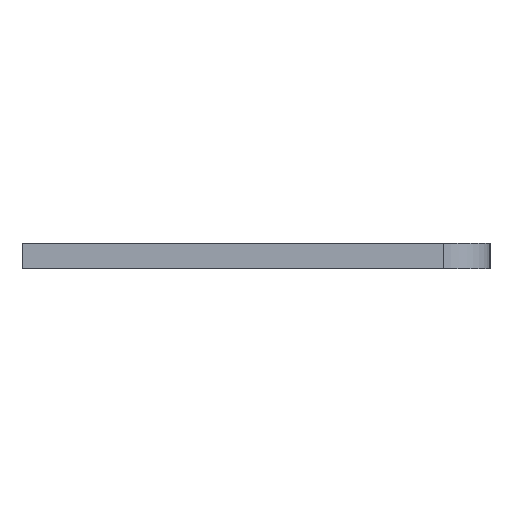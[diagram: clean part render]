
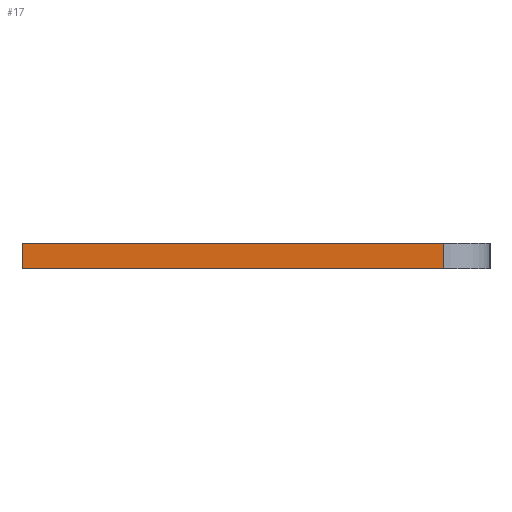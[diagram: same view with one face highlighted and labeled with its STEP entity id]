
A CAD part, left-side view. The second image highlights one B-rep face of the part: STEP entity #17.
In plain terms, the highlighted planar face has unit normal (-1, 0, 0).
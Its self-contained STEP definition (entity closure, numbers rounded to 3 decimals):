
#17 = ADVANCED_FACE('',(#18),#32,.F.);
#18 = FACE_BOUND('',#19,.F.);
#19 = EDGE_LOOP('',(#20,#55,#83,#111));
#20 = ORIENTED_EDGE('',*,*,#21,.F.);
#21 = EDGE_CURVE('',#22,#24,#26,.T.);
#22 = VERTEX_POINT('',#23);
#23 = CARTESIAN_POINT('',(0.,5.,4.25));
#24 = VERTEX_POINT('',#25);
#25 = CARTESIAN_POINT('',(0.,50.,4.25));
#26 = SURFACE_CURVE('',#27,(#31,#43),.PCURVE_S1.);
#27 = LINE('',#28,#29);
#28 = CARTESIAN_POINT('',(0.,0.,4.25));
#29 = VECTOR('',#30,1.);
#30 = DIRECTION('',(0.,1.,0.));
#31 = PCURVE('',#32,#37);
#32 = PLANE('',#33);
#33 = AXIS2_PLACEMENT_3D('',#34,#35,#36);
#34 = CARTESIAN_POINT('',(0.,0.,1.55));
#35 = DIRECTION('',(1.,0.,0.));
#36 = DIRECTION('',(0.,0.,1.));
#37 = DEFINITIONAL_REPRESENTATION('',(#38),#42);
#38 = LINE('',#39,#40);
#39 = CARTESIAN_POINT('',(2.7,0.));
#40 = VECTOR('',#41,1.);
#41 = DIRECTION('',(0.,-1.));
#42 = ( GEOMETRIC_REPRESENTATION_CONTEXT(2) 
PARAMETRIC_REPRESENTATION_CONTEXT() REPRESENTATION_CONTEXT('2D SPACE',''
  ) );
#43 = PCURVE('',#44,#49);
#44 = PLANE('',#45);
#45 = AXIS2_PLACEMENT_3D('',#46,#47,#48);
#46 = CARTESIAN_POINT('',(0.,0.,4.25));
#47 = DIRECTION('',(0.,0.,1.));
#48 = DIRECTION('',(1.,0.,0.));
#49 = DEFINITIONAL_REPRESENTATION('',(#50),#54);
#50 = LINE('',#51,#52);
#51 = CARTESIAN_POINT('',(0.,0.));
#52 = VECTOR('',#53,1.);
#53 = DIRECTION('',(0.,1.));
#54 = ( GEOMETRIC_REPRESENTATION_CONTEXT(2) 
PARAMETRIC_REPRESENTATION_CONTEXT() REPRESENTATION_CONTEXT('2D SPACE',''
  ) );
#55 = ORIENTED_EDGE('',*,*,#56,.F.);
#56 = EDGE_CURVE('',#57,#22,#59,.T.);
#57 = VERTEX_POINT('',#58);
#58 = CARTESIAN_POINT('',(0.,5.,1.55));
#59 = SURFACE_CURVE('',#60,(#64,#71),.PCURVE_S1.);
#60 = LINE('',#61,#62);
#61 = CARTESIAN_POINT('',(0.,5.,1.55));
#62 = VECTOR('',#63,1.);
#63 = DIRECTION('',(0.,0.,1.));
#64 = PCURVE('',#32,#65);
#65 = DEFINITIONAL_REPRESENTATION('',(#66),#70);
#66 = LINE('',#67,#68);
#67 = CARTESIAN_POINT('',(0.,-5.));
#68 = VECTOR('',#69,1.);
#69 = DIRECTION('',(1.,0.));
#70 = ( GEOMETRIC_REPRESENTATION_CONTEXT(2) 
PARAMETRIC_REPRESENTATION_CONTEXT() REPRESENTATION_CONTEXT('2D SPACE',''
  ) );
#71 = PCURVE('',#72,#77);
#72 = CYLINDRICAL_SURFACE('',#73,5.);
#73 = AXIS2_PLACEMENT_3D('',#74,#75,#76);
#74 = CARTESIAN_POINT('',(5.,5.,1.55));
#75 = DIRECTION('',(0.,0.,1.));
#76 = DIRECTION('',(-1.,-0.,0.));
#77 = DEFINITIONAL_REPRESENTATION('',(#78),#82);
#78 = LINE('',#79,#80);
#79 = CARTESIAN_POINT('',(0.,0.));
#80 = VECTOR('',#81,1.);
#81 = DIRECTION('',(0.,1.));
#82 = ( GEOMETRIC_REPRESENTATION_CONTEXT(2) 
PARAMETRIC_REPRESENTATION_CONTEXT() REPRESENTATION_CONTEXT('2D SPACE',''
  ) );
#83 = ORIENTED_EDGE('',*,*,#84,.T.);
#84 = EDGE_CURVE('',#57,#85,#87,.T.);
#85 = VERTEX_POINT('',#86);
#86 = CARTESIAN_POINT('',(0.,50.,1.55));
#87 = SURFACE_CURVE('',#88,(#92,#99),.PCURVE_S1.);
#88 = LINE('',#89,#90);
#89 = CARTESIAN_POINT('',(0.,0.,1.55));
#90 = VECTOR('',#91,1.);
#91 = DIRECTION('',(0.,1.,0.));
#92 = PCURVE('',#32,#93);
#93 = DEFINITIONAL_REPRESENTATION('',(#94),#98);
#94 = LINE('',#95,#96);
#95 = CARTESIAN_POINT('',(0.,0.));
#96 = VECTOR('',#97,1.);
#97 = DIRECTION('',(0.,-1.));
#98 = ( GEOMETRIC_REPRESENTATION_CONTEXT(2) 
PARAMETRIC_REPRESENTATION_CONTEXT() REPRESENTATION_CONTEXT('2D SPACE',''
  ) );
#99 = PCURVE('',#100,#105);
#100 = PLANE('',#101);
#101 = AXIS2_PLACEMENT_3D('',#102,#103,#104);
#102 = CARTESIAN_POINT('',(0.,0.,1.55));
#103 = DIRECTION('',(0.,0.,1.));
#104 = DIRECTION('',(1.,0.,0.));
#105 = DEFINITIONAL_REPRESENTATION('',(#106),#110);
#106 = LINE('',#107,#108);
#107 = CARTESIAN_POINT('',(0.,0.));
#108 = VECTOR('',#109,1.);
#109 = DIRECTION('',(0.,1.));
#110 = ( GEOMETRIC_REPRESENTATION_CONTEXT(2) 
PARAMETRIC_REPRESENTATION_CONTEXT() REPRESENTATION_CONTEXT('2D SPACE',''
  ) );
#111 = ORIENTED_EDGE('',*,*,#112,.F.);
#112 = EDGE_CURVE('',#24,#85,#113,.T.);
#113 = SURFACE_CURVE('',#114,(#118,#125),.PCURVE_S1.);
#114 = LINE('',#115,#116);
#115 = CARTESIAN_POINT('',(0.,50.,4.25));
#116 = VECTOR('',#117,1.);
#117 = DIRECTION('',(0.,0.,-1.));
#118 = PCURVE('',#32,#119);
#119 = DEFINITIONAL_REPRESENTATION('',(#120),#124);
#120 = LINE('',#121,#122);
#121 = CARTESIAN_POINT('',(2.7,-50.));
#122 = VECTOR('',#123,1.);
#123 = DIRECTION('',(-1.,0.));
#124 = ( GEOMETRIC_REPRESENTATION_CONTEXT(2) 
PARAMETRIC_REPRESENTATION_CONTEXT() REPRESENTATION_CONTEXT('2D SPACE',''
  ) );
#125 = PCURVE('',#126,#131);
#126 = PLANE('',#127);
#127 = AXIS2_PLACEMENT_3D('',#128,#129,#130);
#128 = CARTESIAN_POINT('',(-1.,50.,1.45));
#129 = DIRECTION('',(0.,1.,0.));
#130 = DIRECTION('',(0.,0.,1.));
#131 = DEFINITIONAL_REPRESENTATION('',(#132),#136);
#132 = LINE('',#133,#134);
#133 = CARTESIAN_POINT('',(2.8,1.));
#134 = VECTOR('',#135,1.);
#135 = DIRECTION('',(-1.,0.));
#136 = ( GEOMETRIC_REPRESENTATION_CONTEXT(2) 
PARAMETRIC_REPRESENTATION_CONTEXT() REPRESENTATION_CONTEXT('2D SPACE',''
  ) );
